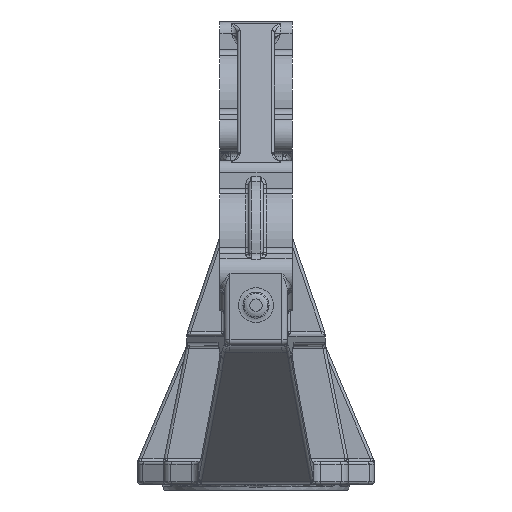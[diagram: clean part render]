
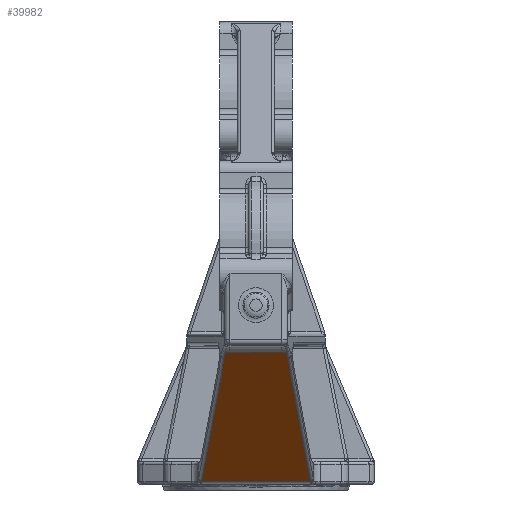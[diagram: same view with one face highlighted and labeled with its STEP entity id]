
A CAD part, left-side view. The second image highlights one B-rep face of the part: STEP entity #39982.
In plain terms, the highlighted planar face has unit normal (-0.524, 0, -0.852).
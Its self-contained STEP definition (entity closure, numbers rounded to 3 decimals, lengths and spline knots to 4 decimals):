
#212=ELLIPSE('',#42997,2.1465,1.125);
#242=ELLIPSE('',#43203,2.1465,1.125);
#3417=LINE('',#72201,#5866);
#3419=LINE('',#72210,#5868);
#3423=LINE('',#72294,#5872);
#3739=LINE('',#78207,#6188);
#3741=LINE('',#78216,#6190);
#3745=LINE('',#78300,#6194);
#3746=LINE('',#78419,#6195);
#3747=LINE('',#78420,#6196);
#5866=VECTOR('',#48871,0.3937);
#5868=VECTOR('',#48881,0.3937);
#5872=VECTOR('',#48931,0.3937);
#6188=VECTOR('',#50921,0.3937);
#6190=VECTOR('',#50931,0.3937);
#6194=VECTOR('',#50981,0.3937);
#6195=VECTOR('',#50994,0.3937);
#6196=VECTOR('',#50995,0.3937);
#8522=PLANE('',#43202);
#9924=FACE_OUTER_BOUND('',#12484,.T.);
#12484=EDGE_LOOP('',(#31906,#31907,#31908,#31909,#31910,#31911,#31912,#31913,
#31914,#31915));
#17656=VERTEX_POINT('',#72199);
#17657=VERTEX_POINT('',#72200);
#17659=VERTEX_POINT('',#72207);
#17660=VERTEX_POINT('',#72209);
#18068=VERTEX_POINT('',#76600);
#18236=VERTEX_POINT('',#78205);
#18237=VERTEX_POINT('',#78206);
#18239=VERTEX_POINT('',#78213);
#18240=VERTEX_POINT('',#78215);
#18253=VERTEX_POINT('',#78417);
#22075=EDGE_CURVE('',#17656,#17657,#3417,.T.);
#22080=EDGE_CURVE('',#17659,#17660,#3419,.T.);
#22101=EDGE_CURVE('',#17660,#17656,#3423,.T.);
#22830=EDGE_CURVE('',#17657,#18068,#212,.T.);
#23074=EDGE_CURVE('',#18236,#18237,#3739,.T.);
#23079=EDGE_CURVE('',#18240,#18239,#3741,.T.);
#23100=EDGE_CURVE('',#18239,#18236,#3745,.T.);
#23107=EDGE_CURVE('',#18237,#18253,#242,.T.);
#23108=EDGE_CURVE('',#18253,#18068,#3746,.T.);
#23109=EDGE_CURVE('',#17659,#18240,#3747,.T.);
#31906=ORIENTED_EDGE('',*,*,#23074,.T.);
#31907=ORIENTED_EDGE('',*,*,#23107,.T.);
#31908=ORIENTED_EDGE('',*,*,#23108,.T.);
#31909=ORIENTED_EDGE('',*,*,#22830,.F.);
#31910=ORIENTED_EDGE('',*,*,#22075,.F.);
#31911=ORIENTED_EDGE('',*,*,#22101,.F.);
#31912=ORIENTED_EDGE('',*,*,#22080,.F.);
#31913=ORIENTED_EDGE('',*,*,#23109,.T.);
#31914=ORIENTED_EDGE('',*,*,#23079,.T.);
#31915=ORIENTED_EDGE('',*,*,#23100,.T.);
#39982=ADVANCED_FACE('',(#9924),#8522,.F.);
#42997=AXIS2_PLACEMENT_3D('',#76601,#50493,#50494);
#43202=AXIS2_PLACEMENT_3D('',#78416,#50990,#50991);
#43203=AXIS2_PLACEMENT_3D('',#78418,#50992,#50993);
#48871=DIRECTION('',(-0.845,-0.125,0.52));
#48881=DIRECTION('',(-0.848,-0.098,0.522));
#48931=DIRECTION('',(-0.85,-0.068,0.523));
#50493=DIRECTION('center_axis',(-0.524,0.,-0.852));
#50494=DIRECTION('ref_axis',(0.852,0.,-0.524));
#50921=DIRECTION('',(-0.845,0.125,0.52));
#50931=DIRECTION('',(-0.848,0.098,0.522));
#50981=DIRECTION('',(-0.85,0.068,0.523));
#50990=DIRECTION('center_axis',(0.524,0.,0.852));
#50991=DIRECTION('ref_axis',(0.852,0.,-0.524));
#50992=DIRECTION('center_axis',(0.524,0.,0.852));
#50993=DIRECTION('ref_axis',(0.852,0.,-0.524));
#50994=DIRECTION('',(0.,1.,0.));
#50995=DIRECTION('',(0.,-1.,0.));
#72199=CARTESIAN_POINT('',(-9.9194,0.6965,2.8446));
#72200=CARTESIAN_POINT('',(-10.1414,0.6637,2.9812));
#72201=CARTESIAN_POINT('',(-8.3987,0.9211,1.9088));
#72207=CARTESIAN_POINT('',(-5.6055,1.1781,0.1899));
#72209=CARTESIAN_POINT('',(-9.4789,0.7316,2.5736));
#72210=CARTESIAN_POINT('',(-9.7078,0.7053,2.7144));
#72294=CARTESIAN_POINT('',(-10.3521,0.6619,3.1109));
#76600=CARTESIAN_POINT('',(-10.1339,0.5625,2.9767));
#76601=CARTESIAN_POINT('Origin',(-11.9621,0.5625,4.1017));
#78205=CARTESIAN_POINT('',(-9.9194,-0.6965,2.8446));
#78206=CARTESIAN_POINT('',(-10.1414,-0.6637,2.9812));
#78207=CARTESIAN_POINT('',(-8.3987,-0.9211,1.9088));
#78213=CARTESIAN_POINT('',(-9.4789,-0.7316,2.5736));
#78215=CARTESIAN_POINT('',(-5.6055,-1.1781,0.1899));
#78216=CARTESIAN_POINT('',(-9.7078,-0.7053,2.7144));
#78300=CARTESIAN_POINT('',(-10.3521,-0.6619,3.1109));
#78416=CARTESIAN_POINT('Origin',(-10.375,0.,3.125));
#78417=CARTESIAN_POINT('',(-10.1339,-0.5625,2.9767));
#78418=CARTESIAN_POINT('Origin',(-11.9621,-0.5625,4.1017));
#78419=CARTESIAN_POINT('',(-10.1339,0.,2.9767));
#78420=CARTESIAN_POINT('',(-5.6055,0.,0.1899));
